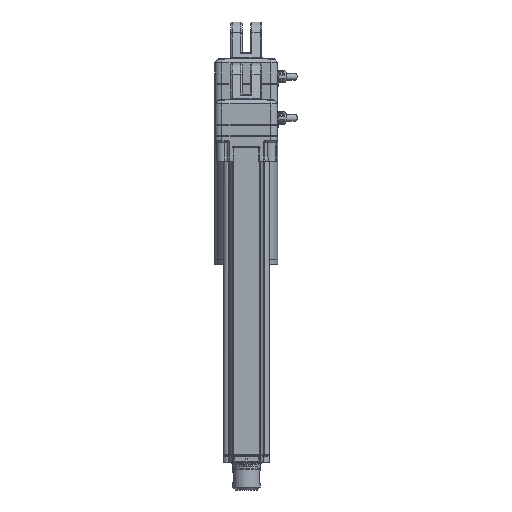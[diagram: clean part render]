
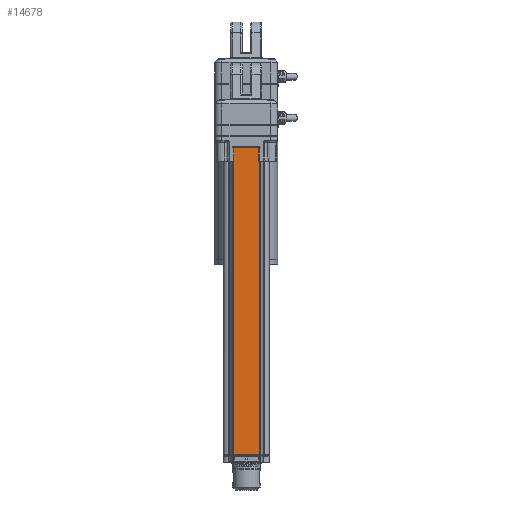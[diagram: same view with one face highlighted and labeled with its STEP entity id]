
A CAD part, front view. The second image highlights one B-rep face of the part: STEP entity #14678.
In plain terms, the highlighted planar face has unit normal (0, -1, 0).
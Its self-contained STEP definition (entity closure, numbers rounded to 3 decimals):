
#13470=B_SPLINE_CURVE_WITH_KNOTS('',3,(#64945,#64946,#64947,#64948),
 .UNSPECIFIED.,.F.,.F.,(4,4),(0.,1.),.UNSPECIFIED.);
#13471=B_SPLINE_CURVE_WITH_KNOTS('',3,(#65083,#65084,#65085,#65086),
 .UNSPECIFIED.,.F.,.F.,(4,4),(0.,1.),.UNSPECIFIED.);
#13980=PLANE('',#49417);
#14678=ADVANCED_FACE('',(#17723),#13980,.F.);
#17723=FACE_OUTER_BOUND('',#19649,.T.);
#19649=EDGE_LOOP('',(#26370,#26371,#26372,#26373,#26374,#26375,#26376,#26377));
#22173=LINE('',#64943,#24212);
#22191=LINE('',#65051,#24230);
#22196=LINE('',#65076,#24235);
#22197=LINE('',#65077,#24236);
#22198=LINE('',#65079,#24237);
#22199=LINE('',#65081,#24238);
#24212=VECTOR('',#53894,1.);
#24230=VECTOR('',#54008,1.);
#24235=VECTOR('',#54037,1.);
#24236=VECTOR('',#54038,1.);
#24237=VECTOR('',#54039,1.);
#24238=VECTOR('',#54040,1.);
#26370=ORIENTED_EDGE('',*,*,#39786,.T.);
#26371=ORIENTED_EDGE('',*,*,#39851,.T.);
#26372=ORIENTED_EDGE('',*,*,#39838,.T.);
#26373=ORIENTED_EDGE('',*,*,#39852,.T.);
#26374=ORIENTED_EDGE('',*,*,#39853,.F.);
#26375=ORIENTED_EDGE('',*,*,#39854,.F.);
#26376=ORIENTED_EDGE('',*,*,#39855,.F.);
#26377=ORIENTED_EDGE('',*,*,#39787,.T.);
#36550=VERTEX_POINT('',#64942);
#36551=VERTEX_POINT('',#64944);
#36552=VERTEX_POINT('',#64949);
#36589=VERTEX_POINT('',#65052);
#36590=VERTEX_POINT('',#65053);
#36597=VERTEX_POINT('',#65078);
#36598=VERTEX_POINT('',#65080);
#36599=VERTEX_POINT('',#65082);
#39786=EDGE_CURVE('',#36551,#36550,#22173,.T.);
#39787=EDGE_CURVE('',#36552,#36551,#13470,.T.);
#39838=EDGE_CURVE('',#36589,#36590,#22191,.T.);
#39851=EDGE_CURVE('',#36550,#36589,#22196,.T.);
#39852=EDGE_CURVE('',#36590,#36597,#22197,.T.);
#39853=EDGE_CURVE('',#36598,#36597,#22198,.T.);
#39854=EDGE_CURVE('',#36599,#36598,#22199,.T.);
#39855=EDGE_CURVE('',#36552,#36599,#13471,.T.);
#49417=AXIS2_PLACEMENT_3D('',#65087,#54041,#54042);
#53894=DIRECTION('',(0.,0.,-1.));
#54008=DIRECTION('',(0.,0.,1.));
#54037=DIRECTION('',(1.,0.,0.));
#54038=DIRECTION('',(1.,0.,0.));
#54039=DIRECTION('',(0.,0.,-1.));
#54040=DIRECTION('',(1.,0.,0.));
#54041=DIRECTION('',(0.,1.,0.));
#54042=DIRECTION('',(0.,0.,1.));
#64942=CARTESIAN_POINT('',(-9.247,-55.9,-227.987));
#64943=CARTESIAN_POINT('',(-9.247,-55.9,13.914));
#64944=CARTESIAN_POINT('',(-9.247,-55.9,-18.));
#64945=CARTESIAN_POINT('',(-9.384,-55.9,-18.));
#64946=CARTESIAN_POINT('',(-9.339,-55.9,-18.));
#64947=CARTESIAN_POINT('',(-9.293,-55.9,-18.));
#64948=CARTESIAN_POINT('',(-9.247,-55.9,-18.));
#64949=CARTESIAN_POINT('',(-9.384,-55.895,-18.));
#65051=CARTESIAN_POINT('',(9.246,-55.9,13.914));
#65052=CARTESIAN_POINT('',(9.246,-55.9,-227.987));
#65053=CARTESIAN_POINT('',(9.246,-55.9,-18.));
#65076=CARTESIAN_POINT('',(-10.,-55.9,-227.987));
#65077=CARTESIAN_POINT('',(-10.,-55.9,-18.));
#65078=CARTESIAN_POINT('',(9.384,-55.9,-18.));
#65079=CARTESIAN_POINT('',(9.384,-55.9,-68.078));
#65080=CARTESIAN_POINT('',(9.283,-55.9,-8.5));
#65081=CARTESIAN_POINT('',(-10.75,-55.9,-8.5));
#65082=CARTESIAN_POINT('',(-9.293,-55.9,-8.5));
#65083=CARTESIAN_POINT('',(-9.384,-55.9,-18.));
#65084=CARTESIAN_POINT('',(-9.384,-55.9,-14.833));
#65085=CARTESIAN_POINT('',(-9.384,-55.9,-11.667));
#65086=CARTESIAN_POINT('',(-9.384,-55.9,-8.5));
#65087=CARTESIAN_POINT('',(-10.,-55.9,13.914));
